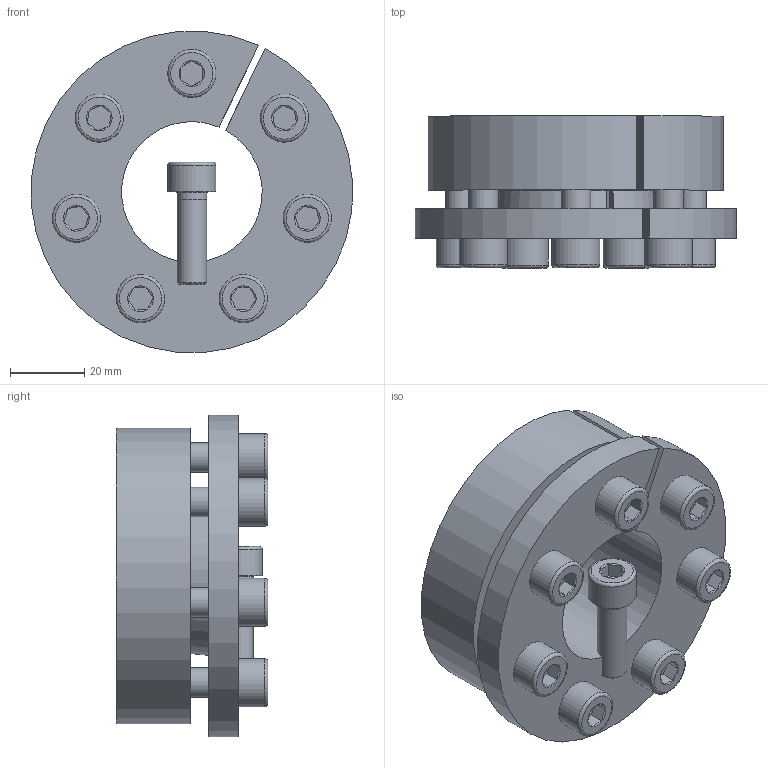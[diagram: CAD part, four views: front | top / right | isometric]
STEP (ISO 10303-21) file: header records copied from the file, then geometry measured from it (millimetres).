
FILE_DESCRIPTION( ( 'Unknown' ), '1' );
FILE_NAME( 'C:/Dokumente und Einstellungen/Sven/Desktop/15/KBS 15 - 38 x 80.stp', 'Unknown', ( 'Unknown' ), ( 'Unknown' ), 'XStep 1.0', 'Unknown', ' ' );
FILE_SCHEMA( ( 'automotive_design' ) );
Length unit declared in the file: millimetre
Products named in the file (3): Assem1; ISO EN DIN 4762 M8x25_21; KBS 15 - 38 x 80_0
Bounding box: 86.78 x 41 x 86.75 mm (x, y, z)
Volume: 233532.8 mm3; surface area: 75963.1 mm2
Topology: 10 solids, 10 shells, 252 faces, 524 edges, 324 vertices
Faces by surface type: plane 110, cylinder 66, cone 60, torus 16
Full cylindrical faces by diameter (mm): 6.647 x14, 7 x8, 8 x16, 9 x14, 13 x8
Entity records: 1694 total; most frequent: CARTESIAN_POINT 272, DIRECTION 260, ORIENTED_EDGE 186, AXIS2_PLACEMENT_3D 115, EDGE_LOOP 104, EDGE_CURVE 93, FACE_OUTER_BOUND 71, VERTEX_POINT 71
